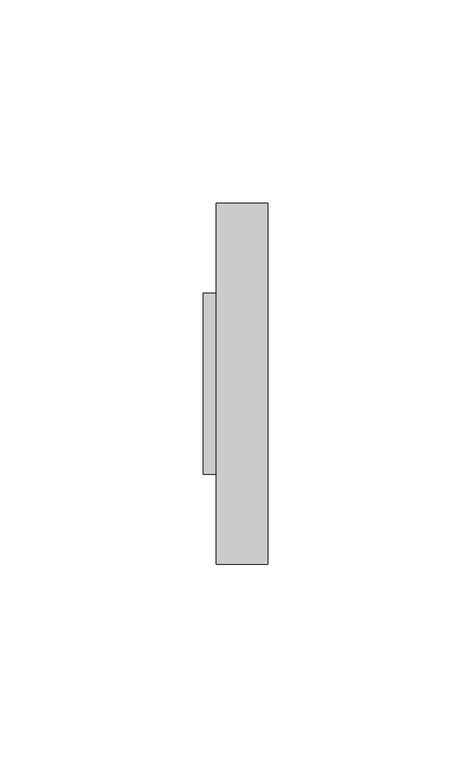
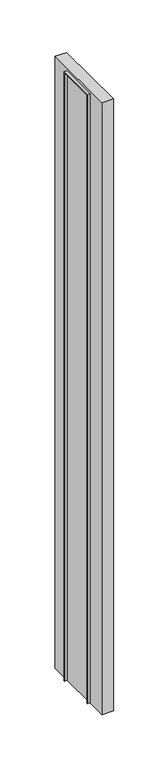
"""IFC4 building model written with IfcOpenShell, lengths in millimetres: furniture geometry."""

import ifcopenshell
import ifcopenshell.guid

model = None  # the IFC model being written
_history = None  # IfcOwnerHistory: only IFC2X3 demands one
_inside = {}  # id of a spatial element -> (the spatial element, [elements in it])
_under = {}  # id of a project, library or spatial element -> (it, [spatial elements below it])
_declared = {}  # id of a project -> (the project, [libraries it declares])
_typed = {}  # id of a type object -> (the type object, [elements of that type])
_made_of = {}  # id of a material, layer set ... -> (it, [elements and type objects made of it])


def new_model(schema):
    """Start an empty IFC model of exactly this schema.

    Asked for "IFC4X3", IfcOpenShell would pick the latest addendum, in which some entities
    have other attributes; the version numbers below select the first issue.
    IFC2X3 requires an IfcOwnerHistory on every rooted entity: one is made here for all.
    """
    global model, _history
    if schema == "IFC4X3":
        model = ifcopenshell.file(schema_version=(4, 3, 0, 0))
    else:
        model = ifcopenshell.file(schema=schema)
    _inside.clear()
    _under.clear()
    _declared.clear()
    _typed.clear()
    _made_of.clear()
    _history = None
    if model.schema == "IFC2X3":
        org = make("IfcOrganization", Name="unknown")
        user = make(
            "IfcPersonAndOrganization",
            ThePerson=make("IfcPerson", FamilyName="unknown"),
            TheOrganization=org,
        )
        app = make(
            "IfcApplication",
            ApplicationDeveloper=org,
            Version="unknown",
            ApplicationFullName="unknown",
            ApplicationIdentifier="unknown",
        )
        _history = make(
            "IfcOwnerHistory",
            OwningUser=user,
            OwningApplication=app,
            ChangeAction="ADDED",
            CreationDate=0,
        )
    return model


def make(cls, **values):
    """One entity of the class cls with the attributes given. An attribute that is None is left unset."""
    return model.create_entity(
        cls, **{name: value for name, value in values.items() if value is not None}
    )


def rooted(cls, **values):
    """An entity with a GlobalId (a new one), such as an element, a storey or a relation."""
    return make(cls, GlobalId=ifcopenshell.guid.new(), OwnerHistory=_history, **values)


def si_unit(unit_type, name, prefix=None):
    """IfcSIUnit, for example si_unit("LENGTHUNIT", "METRE", prefix="MILLI")."""
    return make("IfcSIUnit", UnitType=unit_type, Prefix=prefix, Name=name)


def assignment(units):
    """IfcUnitAssignment: the units of a project."""
    return None if units is None else make("IfcUnitAssignment", Units=units)


def point(xyz):
    """IfcCartesianPoint."""
    return None if xyz is None else make("IfcCartesianPoint", Coordinates=xyz)


def direction(xyz):
    """IfcDirection."""
    return None if xyz is None else make("IfcDirection", DirectionRatios=xyz)


def frame(location, z_axis=None, x_axis=None):
    """IfcAxis2Placement3D, a coordinate frame: its origin and axes. An axis left out is left unset."""
    return make(
        "IfcAxis2Placement3D",
        Location=point(location),
        Axis=direction(z_axis),
        RefDirection=direction(x_axis),
    )


def origin():
    """The frame at (0, 0, 0) with its axes left unset."""
    return frame((0.0, 0.0, 0.0))


def place(relative_to, where):
    """IfcLocalPlacement: puts the frame where relative to a parent placement (None: the world)."""
    return make(
        "IfcLocalPlacement", PlacementRelTo=relative_to, RelativePlacement=where
    )


def context(
    kind, dimensions, precision=None, world=None, true_north=None, identifier=None
):
    """IfcGeometricRepresentationContext, for example the 3D "Model" context."""
    return make(
        "IfcGeometricRepresentationContext",
        ContextIdentifier=identifier,
        ContextType=kind,
        CoordinateSpaceDimension=dimensions,
        Precision=precision,
        WorldCoordinateSystem=world,
        TrueNorth=true_north,
    )


def project(units=None, contexts=None):
    """IfcProject with its units and contexts."""
    return rooted(
        "IfcProject",
        Name="project",
        RepresentationContexts=contexts,
        UnitsInContext=assignment(units),
    )


def spatial(cls, under=None, at=None, **own):
    """A site, building, storey or space (cls), placed at a placement, below another one or the project."""
    s = rooted(cls, ObjectPlacement=at, **own)
    if under is not None:
        _under.setdefault(under.id(), (under, []))[1].append(s)
    return s


def polyline(points):
    """IfcPolyline through the points."""
    return make("IfcPolyline", Points=[point(p) for p in points])


def outline(outer, holes=None, kind="AREA"):
    """IfcArbitraryClosedProfileDef: a profile drawn as a closed curve; with holes, ...WithVoids."""
    if holes is None:
        return make("IfcArbitraryClosedProfileDef", ProfileType=kind, OuterCurve=outer)
    return make(
        "IfcArbitraryProfileDefWithVoids",
        ProfileType=kind,
        OuterCurve=outer,
        InnerCurves=holes,
    )


def extrude(swept, where, along, depth):
    """IfcExtrudedAreaSolid: the profile swept, set in the frame where, extruded along a direction by depth."""
    return make(
        "IfcExtrudedAreaSolid",
        SweptArea=swept,
        Position=where,
        ExtrudedDirection=direction(along),
        Depth=depth,
    )


def shape(context_of_items, identifier, shape_type, items):
    """IfcShapeRepresentation: the items that make up one representation, for example the "Body"."""
    return make(
        "IfcShapeRepresentation",
        ContextOfItems=context_of_items,
        RepresentationIdentifier=identifier,
        RepresentationType=shape_type,
        Items=items,
    )


def source(mapping_origin, context_of_items, identifier, shape_type, items):
    """IfcRepresentationMap: a shape defined once, which mapped items show again and again."""
    return make(
        "IfcRepresentationMap",
        MappingOrigin=mapping_origin,
        MappedRepresentation=shape(context_of_items, identifier, shape_type, items),
    )


def transform(
    local_origin,
    x_axis=None,
    y_axis=None,
    z_axis=None,
    scale=None,
    scale2=None,
    scale3=None,
    uniform=True,
):
    """IfcCartesianTransformationOperator3D, or its non-uniform kind. x_axis, y_axis, z_axis: its Axis1, 2, 3."""
    if uniform:
        return make(
            "IfcCartesianTransformationOperator3D",
            Axis1=direction(x_axis),
            Axis2=direction(y_axis),
            LocalOrigin=point(local_origin),
            Scale=scale,
            Axis3=direction(z_axis),
        )
    return make(
        "IfcCartesianTransformationOperator3DnonUniform",
        Axis1=direction(x_axis),
        Axis2=direction(y_axis),
        LocalOrigin=point(local_origin),
        Scale=scale,
        Axis3=direction(z_axis),
        Scale2=scale2,
        Scale3=scale3,
    )


def mapped(mapping_source, mapping_target):
    """IfcMappedItem: shows the shape of a source again, moved by a transform."""
    return make(
        "IfcMappedItem", MappingSource=mapping_source, MappingTarget=mapping_target
    )


def made_of(thing, what):
    """Note that an element or type object is made of a material, layer set ...; save() writes the relation."""
    if what is not None:
        _made_of.setdefault(what.id(), (what, []))[1].append(thing)
    return thing


def element(
    cls,
    number,
    at=None,
    inside=None,
    cuts=None,
    type_object=None,
    material=None,
    context=None,
    identifier="Body",
    shape_type=None,
    held_by="IfcProductDefinitionShape",
    body=None,
    shapes=None,
    **own,
):
    """One element of the class cls, such as IfcWall. Its Tag is "e" and its number.

    at: its placement. inside: the storey or other place that contains it. cuts: it is an
    opening in that element (IfcRelVoidsElement). A single representation is given by context,
    identifier, shape_type and body (its items); several are given by shapes. held_by: the class
    of the entity that holds the representations. save() writes the other relations.
    """
    e = rooted(cls, Tag="e%d" % number, ObjectPlacement=at, **own)
    if body is not None:
        shapes = [shape(context, identifier, shape_type, body)]
    if shapes is not None:
        e.Representation = make(held_by, Representations=shapes)
    if inside is not None:
        _inside.setdefault(inside.id(), (inside, []))[1].append(e)
    if cuts is not None:
        rooted(
            "IfcRelVoidsElement", RelatingBuildingElement=cuts, RelatedOpeningElement=e
        )
    if type_object is not None:
        _typed.setdefault(type_object.id(), (type_object, []))[1].append(e)
    return made_of(e, material)


def aggregate(whole, parts):
    """IfcRelAggregates: a whole, such as a stair, and the parts it consists of."""
    return rooted("IfcRelAggregates", RelatingObject=whole, RelatedObjects=parts)


def save(model, path):
    """Write the relations noted so far, then the file.

    IfcRelAggregates (storeys below a building ...), IfcRelContainedInSpatialStructure (elements
    in a storey), IfcRelDefinesByType, IfcRelAssociatesMaterial and IfcRelDeclares: one each for
    every whole, place, type object, material and project.
    """
    for whole, parts in _under.values():
        aggregate(whole, parts)
    for where, things in _inside.values():
        rooted(
            "IfcRelContainedInSpatialStructure",
            RelatedElements=things,
            RelatingStructure=where,
        )
    for kind, things in _typed.values():
        rooted("IfcRelDefinesByType", RelatedObjects=things, RelatingType=kind)
    for what, things in _made_of.values():
        rooted("IfcRelAssociatesMaterial", RelatedObjects=things, RelatingMaterial=what)
    for by, libraries in _declared.values():
        rooted("IfcRelDeclares", RelatingContext=by, RelatedDefinitions=libraries)
    model.write(path)


def furniture_81fe7897(model_context):
    return source(origin(), model_context, "Body", "SweptSolid", [
        extrude(outline(polyline([(-28.0212056, 1774.825), (16.4287944, 1774.825), (16.4287944, 1066.8), (15.6350444, 1066.8), (15.6350444, 1774.03125), (-27.2274556, 1774.03125), (-27.2274556, 1066.8), (-28.0212056, 1066.8), (-28.0212056, 1774.825)])), frame((-8.5456018, 0.0, 0.0), z_axis=(1.0, 0.0, 0.0), x_axis=(0.0, 1.0, 0.0)), (0.0, 0.0, 1.0), 3.175),
        extrude(outline(polyline([(7.3293982, 38.6537944), (7.3293982, -50.2462056), (-5.3706018, -50.2462056), (-5.3706018, 38.6537944), (7.3293982, 38.6537944)])), frame((0.0, 0.0, 1066.8), z_axis=(0.0, 0.0, 1.0), x_axis=(1.0, 0.0, 0.0)), (0.0, 0.0, 1.0), 711.2),
    ])


if __name__ == "__main__":
    model = new_model("IFC4")
    model_context = context("Model", 3, world=origin())
    ifc_project = project(units=[si_unit("LENGTHUNIT", "METRE", prefix="MILLI")], contexts=[model_context])
    site = spatial("IfcSite", under=ifc_project)
    building = spatial("IfcBuilding", under=site)
    placement = place(None, origin())
    furniture_shape = furniture_81fe7897(model_context)
    element("IfcFurniture", 1, ObjectType="HermanMiller_Ethospace_E1251_FinishedEndChangeOfHeight : Std Ptd 28\"H", at=placement, inside=building, context=model_context, shape_type="MappedRepresentation", body=[
        mapped(furniture_shape, transform((0.0, 0.0, 0.0), x_axis=(1.0, 0.0, 0.0), y_axis=(0.0, 1.0, 0.0), z_axis=(0.0, 0.0, 1.0))),
    ])
    save(model, "model.ifc")
